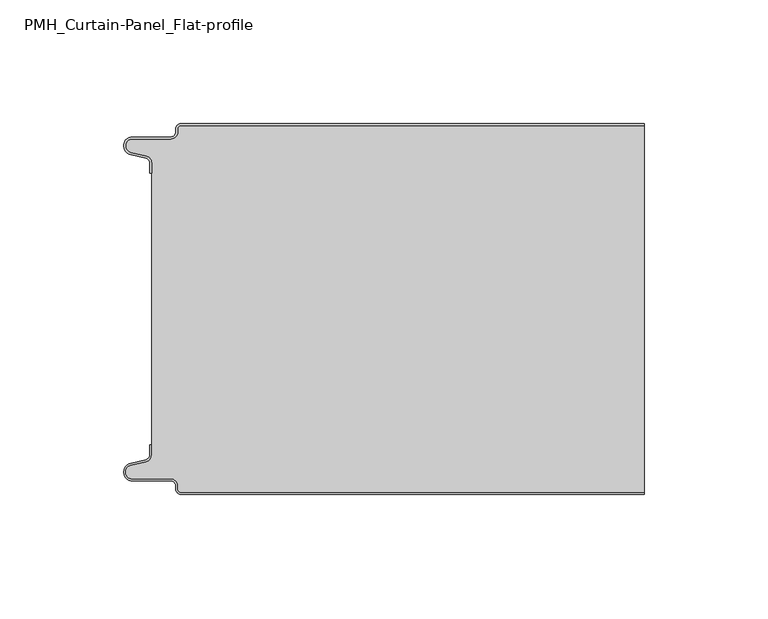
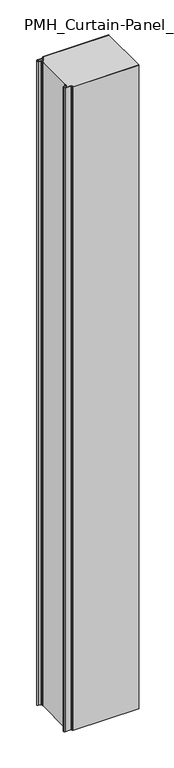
"""IFC4 building model written with IfcOpenShell, lengths in millimetres: plate geometry, PMH_Curtain-Panel_Flat-profile : ACH_PMH_Stone-wool-Panel_150M."""

from ifc_helpers import new_model, si_unit, point, frame_2d, origin, origin_with_axes, place, context, project, spatial, polyline, circle_curve, trimmed, segment, composite_curve, outline, extrude, source, transform, mapped, element, save


def pmh_curtain_panel_flat_profile_30854e42(model_context):
    return source(origin(), model_context, "Body", "SweptSolid", [
        extrude(outline(composite_curve([segment(trimmed(circle_curve(frame_2d((-87.4119739, -2.0)), 1.2), [point((-87.4119739, -0.8))], [point((-88.6119739, -2.0))], True, "CARTESIAN"), True, "CONTINUOUS"), segment(polyline([(-88.6119739, -2.0), (-88.6119739, -3.4)]), True, "CONTINUOUS"), segment(trimmed(circle_curve(frame_2d((-91.4119739, -3.4)), 2.8), [point((-88.6119739, -3.4))], [point((-91.4119739, -6.2))], False, "CARTESIAN"), True, "CONTINUOUS"), segment(polyline([(-91.4119739, -6.2), (-106.9119739, -6.2)]), True, "CONTINUOUS"), segment(trimmed(circle_curve(frame_2d((-106.9119739, -9.0)), 2.8), [point((-106.9119739, -6.2))], [point((-107.541837, -11.7282362))], True, "CARTESIAN"), True, "CONTINUOUS"), segment(polyline([(-107.541837, -11.7282362), (-101.3821109, -13.150321)]), True, "CONTINUOUS"), segment(trimmed(circle_curve(frame_2d((-102.0119739, -15.878557)), 2.8), [point((-101.3821109, -13.150321))], [point((-99.2119739, -15.878557))], False, "CARTESIAN"), True, "CONTINUOUS"), segment(polyline([(-99.2119739, -15.878557), (-99.2119739, -20.0), (-100.0119739, -20.0), (-100.0119739, -15.878557)]), True, "CONTINUOUS"), segment(trimmed(circle_curve(frame_2d((-102.0119739, -15.878557)), 2.0), [point((-100.0119739, -15.878557))], [point((-101.5620718, -13.9298169))], True, "CARTESIAN"), True, "CONTINUOUS"), segment(polyline([(-101.5620718, -13.9298169), (-107.7217978, -12.507732)]), True, "CONTINUOUS"), segment(trimmed(circle_curve(frame_2d((-106.9119739, -9.0)), 3.6), [point((-107.7217978, -12.507732))], [point((-106.9119739, -5.4))], False, "CARTESIAN"), True, "CONTINUOUS"), segment(polyline([(-106.9119739, -5.4), (-91.4119739, -5.4)]), True, "CONTINUOUS"), segment(trimmed(circle_curve(frame_2d((-91.4119739, -3.4)), 2.0), [point((-91.4119739, -5.4))], [point((-89.4119739, -3.4))], True, "CARTESIAN"), True, "CONTINUOUS"), segment(polyline([(-89.4119739, -3.4), (-89.4119739, -2.0)]), True, "CONTINUOUS"), segment(trimmed(circle_curve(frame_2d((-87.4119739, -2.0)), 2.0), [point((-89.4119739, -2.0))], [point((-87.4119739, 0.0))], False, "CARTESIAN"), True, "CONTINUOUS"), segment(polyline([(-87.4119739, 0.0), (100.0119739, 0.0), (100.0119739, -0.8), (-87.4119739, -0.8)]), True, "CONTINUOUS")], self_intersect=False)), origin_with_axes(), (0.0, 0.0, 1.0), 1945.7507136),
        extrude(outline(composite_curve([segment(polyline([(-99.2119739, -134.1214426), (-99.2119739, -15.8785573)]), True, "CONTINUOUS"), segment(trimmed(circle_curve(frame_2d((-102.0119739, -15.8785573)), 2.8), [point((-99.2119739, -15.8785573))], [point((-101.3821109, -13.1503212))], True, "CARTESIAN"), True, "CONTINUOUS"), segment(polyline([(-101.3821109, -13.1503212), (-107.541837, -11.7282362)]), True, "CONTINUOUS"), segment(trimmed(circle_curve(frame_2d((-106.911974, -9.0)), 2.8), [point((-107.541837, -11.7282362))], [point((-106.911974, -6.2))], False, "CARTESIAN"), True, "CONTINUOUS"), segment(polyline([(-106.911974, -6.2), (-91.411974, -6.2)]), True, "CONTINUOUS"), segment(trimmed(circle_curve(frame_2d((-91.411974, -3.4)), 2.8), [point((-91.411974, -6.2))], [point((-88.611974, -3.4))], True, "CARTESIAN"), True, "CONTINUOUS"), segment(polyline([(-88.611974, -3.4), (-88.611974, -2.0)]), True, "CONTINUOUS"), segment(trimmed(circle_curve(frame_2d((-87.411974, -2.0)), 1.2), [point((-88.611974, -2.0))], [point((-87.411974, -0.8))], False, "CARTESIAN"), True, "CONTINUOUS"), segment(polyline([(-87.411974, -0.8), (100.0119739, -0.8), (100.0119739, -149.2), (-87.411974, -149.2)]), True, "CONTINUOUS"), segment(trimmed(circle_curve(frame_2d((-87.411974, -148.0)), 1.2), [point((-87.411974, -149.2))], [point((-88.611974, -148.0))], False, "CARTESIAN"), True, "CONTINUOUS"), segment(polyline([(-88.611974, -148.0), (-88.611974, -146.6)]), True, "CONTINUOUS"), segment(trimmed(circle_curve(frame_2d((-91.411974, -146.6)), 2.8), [point((-88.611974, -146.6))], [point((-91.411974, -143.8))], True, "CARTESIAN"), True, "CONTINUOUS"), segment(polyline([(-91.411974, -143.8), (-106.911974, -143.8)]), True, "CONTINUOUS"), segment(trimmed(circle_curve(frame_2d((-106.911974, -141.0)), 2.8), [point((-106.911974, -143.8))], [point((-107.541837, -138.2717638))], False, "CARTESIAN"), True, "CONTINUOUS"), segment(polyline([(-107.541837, -138.2717638), (-101.3821109, -136.8496788)]), True, "CONTINUOUS"), segment(trimmed(circle_curve(frame_2d((-102.0119739, -134.1214426)), 2.8), [point((-101.3821109, -136.8496788))], [point((-99.2119739, -134.1214426))], True, "CARTESIAN"), True, "CONTINUOUS")], self_intersect=False)), origin_with_axes(), (0.0, 0.0, 1.0), 1945.7507136),
        extrude(outline(composite_curve([segment(trimmed(circle_curve(frame_2d((-87.4119739, -148.0)), 2.0), [point((-87.4119739, -150.0))], [point((-89.4119739, -148.0))], False, "CARTESIAN"), True, "CONTINUOUS"), segment(polyline([(-89.4119739, -148.0), (-89.4119739, -146.6)]), True, "CONTINUOUS"), segment(trimmed(circle_curve(frame_2d((-91.4119739, -146.6)), 2.0), [point((-89.4119739, -146.6))], [point((-91.4119739, -144.6))], True, "CARTESIAN"), True, "CONTINUOUS"), segment(polyline([(-91.4119739, -144.6), (-106.9119739, -144.6)]), True, "CONTINUOUS"), segment(trimmed(circle_curve(frame_2d((-106.9119739, -141.0)), 3.6), [point((-106.9119739, -144.6))], [point((-107.7217979, -137.4922678))], False, "CARTESIAN"), True, "CONTINUOUS"), segment(polyline([(-107.7217979, -137.4922678), (-101.5620718, -136.070183)]), True, "CONTINUOUS"), segment(trimmed(circle_curve(frame_2d((-102.0119739, -134.121443)), 2.0), [point((-101.5620718, -136.070183))], [point((-100.0119739, -134.121443))], True, "CARTESIAN"), True, "CONTINUOUS"), segment(polyline([(-100.0119739, -134.121443), (-100.0119739, -130.0), (-99.2119739, -130.0), (-99.2119739, -134.121443)]), True, "CONTINUOUS"), segment(trimmed(circle_curve(frame_2d((-102.0119739, -134.121443)), 2.8), [point((-99.2119739, -134.121443))], [point((-101.3821109, -136.8496792))], False, "CARTESIAN"), True, "CONTINUOUS"), segment(polyline([(-101.3821109, -136.8496792), (-107.5418369, -138.271764)]), True, "CONTINUOUS"), segment(trimmed(circle_curve(frame_2d((-106.9119739, -141.0)), 2.8), [point((-107.5418369, -138.271764))], [point((-106.9119739, -143.8))], True, "CARTESIAN"), True, "CONTINUOUS"), segment(polyline([(-106.9119739, -143.8), (-91.4119739, -143.8)]), True, "CONTINUOUS"), segment(trimmed(circle_curve(frame_2d((-91.4119739, -146.6)), 2.8), [point((-91.4119739, -143.8))], [point((-88.6119739, -146.6))], False, "CARTESIAN"), True, "CONTINUOUS"), segment(polyline([(-88.6119739, -146.6), (-88.6119739, -148.0)]), True, "CONTINUOUS"), segment(trimmed(circle_curve(frame_2d((-87.4119739, -148.0)), 1.2), [point((-88.6119739, -148.0))], [point((-87.4119739, -149.2))], True, "CARTESIAN"), True, "CONTINUOUS"), segment(polyline([(-87.4119739, -149.2), (100.0119739, -149.2), (100.0119739, -150.0), (-87.4119739, -150.0)]), True, "CONTINUOUS")], self_intersect=False)), origin_with_axes(), (0.0, 0.0, 1.0), 1945.7507136),
    ])


if __name__ == "__main__":
    model = new_model("IFC4")
    model_context = context("Model", 3, world=origin())
    ifc_project = project(units=[si_unit("LENGTHUNIT", "METRE", prefix="MILLI")], contexts=[model_context])
    site = spatial("IfcSite", under=ifc_project)
    building = spatial("IfcBuilding", under=site)
    placement = place(None, origin())
    pmh_curtain_panel_flat_profile_shape = pmh_curtain_panel_flat_profile_30854e42(model_context)
    element("IfcPlate", 1, ObjectType="PMH_Curtain-Panel_Flat-profile : ACH_PMH_Stone-wool-Panel_150M", at=placement, inside=building, context=model_context, shape_type="MappedRepresentation", body=[
        mapped(pmh_curtain_panel_flat_profile_shape, transform((0.0, 0.0, 0.0), x_axis=(1.0, 0.0, 0.0), y_axis=(0.0, 1.0, 0.0), z_axis=(0.0, 0.0, 1.0))),
    ])
    save(model, "model.ifc")
